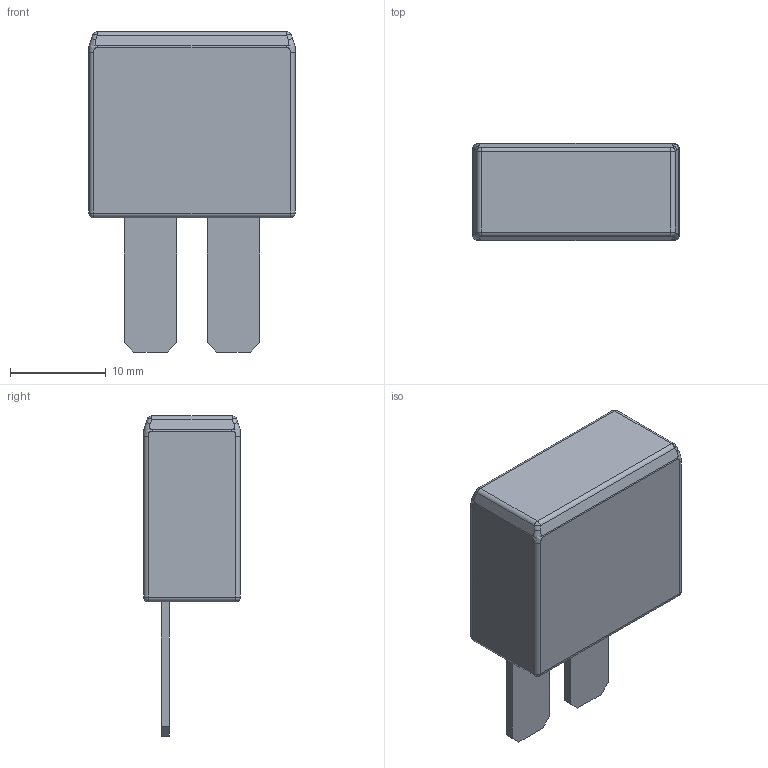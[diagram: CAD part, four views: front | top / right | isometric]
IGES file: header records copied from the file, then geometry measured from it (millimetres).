
Global section: file name: No Iges File Name specified; native system: AutoDesk Inventor R6.0; preprocessor: AutoDesk Inventor Iges Exporter R6.0; author: No Author specified; organization: No Organization specified; date: 20051231.101038; units: millimetre
Bounding box: 21.5 x 10.1 x 33.38 mm (x, y, z)
Surface area: 1943.8 mm2 (no closed solid volume)
Topology: 0 solids, 0 shells, 56 faces, 272 edges, 264 vertices
Faces by surface type: revolution 28, plane 19, bspline 9
